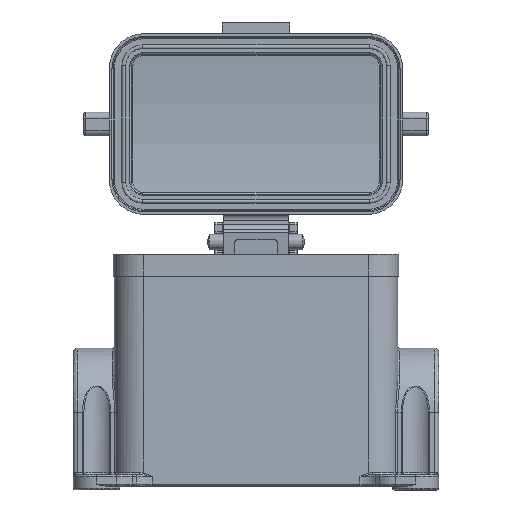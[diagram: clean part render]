
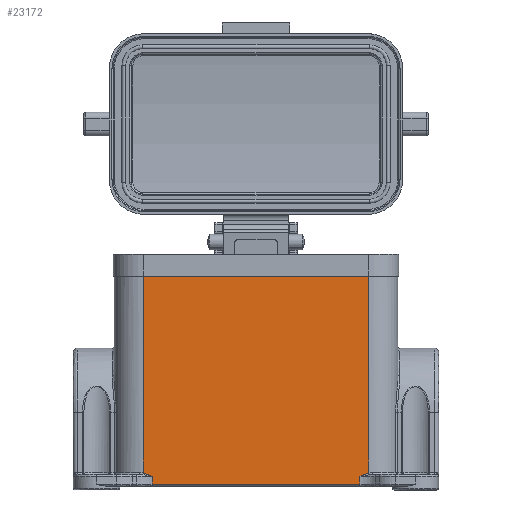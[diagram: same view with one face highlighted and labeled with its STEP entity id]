
A CAD part, front view. The second image highlights one B-rep face of the part: STEP entity #23172.
In plain terms, the highlighted planar face has unit normal (0, -1, 0) as drawn and (-1, 0, 0) by its records, which use the part's own axes.
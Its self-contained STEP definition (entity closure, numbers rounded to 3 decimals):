
#80 = CARTESIAN_POINT ( 'NONE',  ( -21.5, 2.824, -27.473 ) ) ;
#953 = CARTESIAN_POINT ( 'NONE',  ( -21.5, 3.22, -28.512 ) ) ;
#1268 = VERTEX_POINT ( 'NONE', #2649 ) ;
#1799 = CARTESIAN_POINT ( 'NONE',  ( -21.5, 0.5, -36.5 ) ) ;
#1911 = CARTESIAN_POINT ( 'NONE',  ( -21.5, 2.732, 27.255 ) ) ;
#2649 = CARTESIAN_POINT ( 'NONE',  ( -21.5, 2.5, 26.737 ) ) ;
#4875 = DIRECTION ( 'NONE',  ( -1., 0., 0. ) ) ;
#4907 = CARTESIAN_POINT ( 'NONE',  ( -21.5, 0.5, 26.737 ) ) ;
#5015 = VERTEX_POINT ( 'NONE', #33531 ) ;
#5165 = VECTOR ( 'NONE', #32215, 1000. ) ;
#5166 = DIRECTION ( 'NONE',  ( 0., 0., 1. ) ) ;
#7471 = CARTESIAN_POINT ( 'NONE',  ( -21.5, 3.015, -27.939 ) ) ;
#7557 = EDGE_CURVE ( 'NONE', #58265, #21043, #87897, .T. ) ;
#7777 = CARTESIAN_POINT ( 'NONE',  ( -21.5, 2.948, -27.772 ) ) ;
#8026 = ORIENTED_EDGE ( 'NONE', *, *, #41717, .T. ) ;
#8743 = CARTESIAN_POINT ( 'NONE',  ( -21.5, 3.253, 28.609 ) ) ;
#8803 = EDGE_CURVE ( 'NONE', #5015, #88166, #74413, .T. ) ;
#9507 = ORIENTED_EDGE ( 'NONE', *, *, #13753, .T. ) ;
#11160 = CARTESIAN_POINT ( 'NONE',  ( -21.5, 2.598, 26.953 ) ) ;
#13044 = B_SPLINE_CURVE_WITH_KNOTS ( 'NONE', 3,
 ( #37657, #11160, #1911, #65303, #24566, #29278, #72140, #31399, #18008, #28981, #76557, #36114, #35819, #83413, #49520, #76851, #8743, #45339, #25442 ),
 .UNSPECIFIED., .F., .F.,
 ( 4, 1, 1, 1, 1, 1, 2, 2, 1, 1, 2, 2, 4 ),
 ( 0., 0.25, 0.375, 0.438, 0.469, 0.484, 0.492, 0.5, 0.625, 0.688, 0.719, 0.75, 1. ),
 .UNSPECIFIED. ) ;
#13175 = CARTESIAN_POINT ( 'NONE',  ( -21.5, 3.112, -28.196 ) ) ;
#13753 = EDGE_CURVE ( 'NONE', #62090, #1268, #77320, .T. ) ;
#14041 = CARTESIAN_POINT ( 'NONE',  ( -21.5, 2.997, -27.895 ) ) ;
#18008 = CARTESIAN_POINT ( 'NONE',  ( -21.5, 2.976, 27.84 ) ) ;
#18847 = CARTESIAN_POINT ( 'NONE',  ( -21.5, 0., -36.5 ) ) ;
#20015 = CARTESIAN_POINT ( 'NONE',  ( -21.5, 2.661, -27.093 ) ) ;
#20886 = CARTESIAN_POINT ( 'NONE',  ( -21.5, 2.579, -26.908 ) ) ;
#21043 = VERTEX_POINT ( 'NONE', #57635 ) ;
#23172 = ADVANCED_FACE ( 'NONE', ( #71498 ), #32241, .T. ) ;
#24566 = CARTESIAN_POINT ( 'NONE',  ( -21.5, 2.924, 27.711 ) ) ;
#25205 = VECTOR ( 'NONE', #41256, 1000. ) ;
#25442 = CARTESIAN_POINT ( 'NONE',  ( -21.5, 3.359, 29. ) ) ;
#28024 = CARTESIAN_POINT ( 'NONE',  ( -21.5, 3.16, -28.332 ) ) ;
#28765 = ORIENTED_EDGE ( 'NONE', *, *, #79117, .T. ) ;
#28981 = CARTESIAN_POINT ( 'NONE',  ( -21.5, 2.977, 27.843 ) ) ;
#29278 = CARTESIAN_POINT ( 'NONE',  ( -21.5, 2.952, 27.781 ) ) ;
#31399 = CARTESIAN_POINT ( 'NONE',  ( -21.5, 2.972, 27.83 ) ) ;
#31450 = CARTESIAN_POINT ( 'NONE',  ( -21.5, 54., 29. ) ) ;
#32215 = DIRECTION ( 'NONE',  ( 0., -1., 0. ) ) ;
#32241 = PLANE ( 'NONE',  #34488 ) ;
#33531 = CARTESIAN_POINT ( 'NONE',  ( -21.5, 3.359, 29. ) ) ;
#33983 = CARTESIAN_POINT ( 'NONE',  ( -21.5, 3.293, -28.752 ) ) ;
#34274 = CARTESIAN_POINT ( 'NONE',  ( -21.5, 2.984, -27.863 ) ) ;
#34488 = AXIS2_PLACEMENT_3D ( 'NONE', #18847, #4875, #5166 ) ;
#34568 = CARTESIAN_POINT ( 'NONE',  ( -21.5, 2.896, -27.643 ) ) ;
#34937 = VECTOR ( 'NONE', #83359, 1000. ) ;
#35819 = CARTESIAN_POINT ( 'NONE',  ( -21.5, 3.135, 28.261 ) ) ;
#36046 = VERTEX_POINT ( 'NONE', #87958 ) ;
#36114 = CARTESIAN_POINT ( 'NONE',  ( -21.5, 3.076, 28.098 ) ) ;
#37233 = DIRECTION ( 'NONE',  ( 0., 1., 0. ) ) ;
#37657 = CARTESIAN_POINT ( 'NONE',  ( -21.5, 2.5, 26.737 ) ) ;
#39476 = ORIENTED_EDGE ( 'NONE', *, *, #7557, .T. ) ;
#40672 = CARTESIAN_POINT ( 'NONE',  ( -21.5, 0., 26.737 ) ) ;
#41256 = DIRECTION ( 'NONE',  ( 0., 1., 0. ) ) ;
#41717 = EDGE_CURVE ( 'NONE', #88166, #54637, #82337, .T. ) ;
#43932 = LINE ( 'NONE', #1799, #51394 ) ;
#45339 = CARTESIAN_POINT ( 'NONE',  ( -21.5, 3.31, 28.803 ) ) ;
#47668 = CARTESIAN_POINT ( 'NONE',  ( -21.5, 2.751, -27.303 ) ) ;
#48233 = CARTESIAN_POINT ( 'NONE',  ( -21.5, 2.757, -27.317 ) ) ;
#48525 = CARTESIAN_POINT ( 'NONE',  ( -21.5, 2.99, -27.875 ) ) ;
#49520 = CARTESIAN_POINT ( 'NONE',  ( -21.5, 3.174, 28.374 ) ) ;
#51055 = ORIENTED_EDGE ( 'NONE', *, *, #61712, .T. ) ;
#51394 = VECTOR ( 'NONE', #70211, 1000. ) ;
#51864 = EDGE_CURVE ( 'NONE', #54637, #58265, #78655, .T. ) ;
#52453 = CARTESIAN_POINT ( 'NONE',  ( -21.5, 0., -29. ) ) ;
#53780 = ORIENTED_EDGE ( 'NONE', *, *, #66886, .T. ) ;
#54506 = CARTESIAN_POINT ( 'NONE',  ( -21.5, 2.5, -26.737 ) ) ;
#54637 = VERTEX_POINT ( 'NONE', #73237 ) ;
#56320 = VECTOR ( 'NONE', #37233, 1000. ) ;
#57635 = CARTESIAN_POINT ( 'NONE',  ( -21.5, 2.5, -26.737 ) ) ;
#57886 = VECTOR ( 'NONE', #84713, 1000. ) ;
#58265 = VERTEX_POINT ( 'NONE', #71539 ) ;
#60059 = ORIENTED_EDGE ( 'NONE', *, *, #8803, .T. ) ;
#60769 = CARTESIAN_POINT ( 'NONE',  ( -21.5, 3.205, -28.465 ) ) ;
#61639 = CARTESIAN_POINT ( 'NONE',  ( -21.5, 2.769, -27.344 ) ) ;
#61712 = EDGE_CURVE ( 'NONE', #1268, #5015, #13044, .T. ) ;
#62090 = VERTEX_POINT ( 'NONE', #4907 ) ;
#62331 = ORIENTED_EDGE ( 'NONE', *, *, #51864, .T. ) ;
#62840 = CARTESIAN_POINT ( 'NONE',  ( -21.5, 0., -26.737 ) ) ;
#63019 = CARTESIAN_POINT ( 'NONE',  ( -21.5, 54., -36.5 ) ) ;
#65303 = CARTESIAN_POINT ( 'NONE',  ( -21.5, 2.864, 27.566 ) ) ;
#66886 = EDGE_CURVE ( 'NONE', #36046, #62090, #43932, .T. ) ;
#67869 = CARTESIAN_POINT ( 'NONE',  ( -21.5, 3.359, -29. ) ) ;
#68165 = CARTESIAN_POINT ( 'NONE',  ( -21.5, 3.196, -28.44 ) ) ;
#70211 = DIRECTION ( 'NONE',  ( 0., 0., 1. ) ) ;
#71498 = FACE_OUTER_BOUND ( 'NONE', #84438, .T. ) ;
#71539 = CARTESIAN_POINT ( 'NONE',  ( -21.5, 3.359, -29. ) ) ;
#71724 = CARTESIAN_POINT ( 'NONE',  ( -21.5, 0., 29. ) ) ;
#72140 = CARTESIAN_POINT ( 'NONE',  ( -21.5, 2.966, 27.816 ) ) ;
#73237 = CARTESIAN_POINT ( 'NONE',  ( -21.5, 54., -29. ) ) ;
#74413 = LINE ( 'NONE', #71724, #56320 ) ;
#74726 = CARTESIAN_POINT ( 'NONE',  ( -21.5, 3.334, -28.9 ) ) ;
#75304 = CARTESIAN_POINT ( 'NONE',  ( -21.5, 2.981, -27.855 ) ) ;
#76557 = CARTESIAN_POINT ( 'NONE',  ( -21.5, 3.02, 27.951 ) ) ;
#76851 = CARTESIAN_POINT ( 'NONE',  ( -21.5, 3.181, 28.395 ) ) ;
#77320 = LINE ( 'NONE', #40672, #25205 ) ;
#78655 = LINE ( 'NONE', #52453, #5165 ) ;
#79117 = EDGE_CURVE ( 'NONE', #21043, #36046, #80715, .T. ) ;
#80715 = LINE ( 'NONE', #62840, #34937 ) ;
#81563 = CARTESIAN_POINT ( 'NONE',  ( -21.5, 3.243, -28.584 ) ) ;
#82147 = CARTESIAN_POINT ( 'NONE',  ( -21.5, 2.786, -27.384 ) ) ;
#82337 = LINE ( 'NONE', #63019, #57886 ) ;
#82442 = CARTESIAN_POINT ( 'NONE',  ( -21.5, 3.049, -28.026 ) ) ;
#83359 = DIRECTION ( 'NONE',  ( 0., -1., 0. ) ) ;
#83413 = CARTESIAN_POINT ( 'NONE',  ( -21.5, 3.159, 28.329 ) ) ;
#84438 = EDGE_LOOP ( 'NONE', ( #62331, #39476, #28765, #53780, #9507, #51055, #60059, #8026 ) ) ;
#84713 = DIRECTION ( 'NONE',  ( 0., 0., -1. ) ) ;
#87897 = B_SPLINE_CURVE_WITH_KNOTS ( 'NONE', 3,
 ( #67869, #74726, #33983, #81563, #953, #60769, #68165, #28024, #13175, #82442, #7471, #14041, #48525, #34274, #75304, #7777, #34568, #80, #82147, #61639, #48233, #47668, #20015, #20886, #54506 ),
 .UNSPECIFIED., .F., .F.,
 ( 4, 1, 1, 2, 2, 1, 1, 1, 1, 2, 2, 1, 1, 1, 2, 2, 4 ),
 ( 0., 0.125, 0.188, 0.219, 0.25, 0.375, 0.438, 0.469, 0.484, 0.492, 0.5, 0.625, 0.688, 0.719, 0.734, 0.75, 1. ),
 .UNSPECIFIED. ) ;
#87958 = CARTESIAN_POINT ( 'NONE',  ( -21.5, 0.5, -26.737 ) ) ;
#88166 = VERTEX_POINT ( 'NONE', #31450 ) ;
